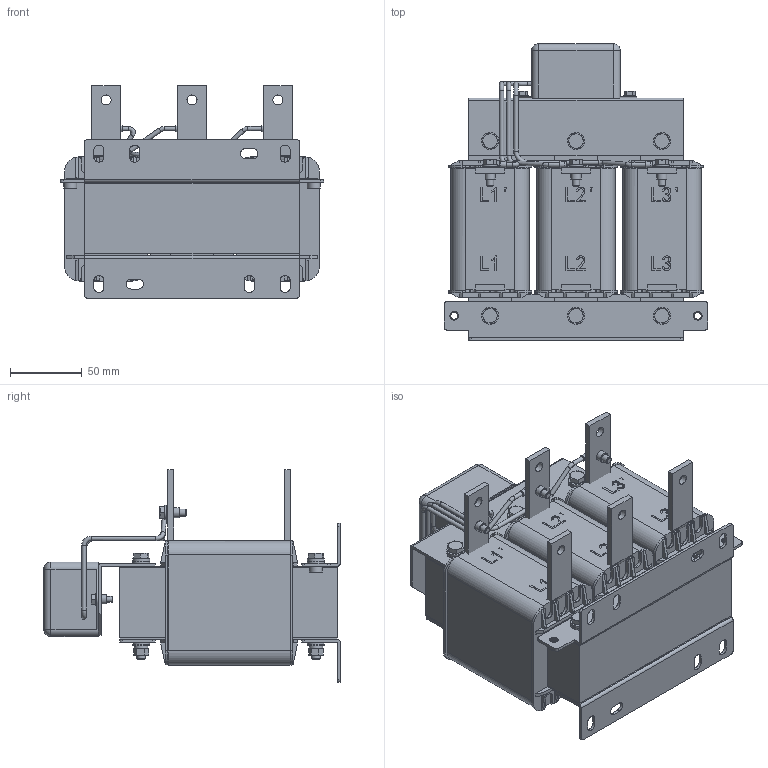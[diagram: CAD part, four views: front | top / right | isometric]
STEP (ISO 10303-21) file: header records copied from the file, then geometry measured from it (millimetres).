
FILE_DESCRIPTION(('STEP AP203'), '1');
FILE_NAME('IDUDT-30_80-4 _ dU_dt ôèëüòð 30 êÂò', '', ('UNSPECIFIED'), ('UNSPECIFIED'), 'C3D Converter', 'C3D Toolkit', '');
FILE_SCHEMA(('CONFIG_CONTROL_DESIGN'));
Length unit declared in the file: millimetre
Products named in the file (23): IDUDT-30/80-4
Assembly tree (47 placements, depth 3):
  IDUDT-30/80-4
    (unnamed)
    (unnamed)  x6
    (unnamed)
    (unnamed)
    (unnamed)
    (unnamed)
    (unnamed)
    (unnamed)
    (unnamed)  x2
      (unnamed)
      (unnamed)
    (unnamed)  x3
    (unnamed)  x3
    (unnamed)  x3
    (unnamed)  x6
    (unnamed)  x6
      (unnamed)
      (unnamed)
    (unnamed)  x3
      (unnamed)
      (unnamed)
    (unnamed)
Bounding box: 184 x 207 x 148.5 mm (x, y, z)
Volume: 1931642.5 mm3; surface area: 444956.6 mm2
Topology: 127 solids, 127 shells, 1928 faces, 4755 edges, 3136 vertices
Faces by surface type: plane 1329, cylinder 451, cone 104, bspline 27, torus 13, sphere 4
Full cylindrical faces by diameter (mm): 2.3 x3, 3 x21, 4 x5, 4.2 x3, 4.3 x3, 4.333 x2, 5 x5, 5.053 x6, 5.5 x3, 6 x6, 6.45 x6, 6.5 x14, 6.6 x12, 7 x9, 8 x2, 9 x20, 9.55 x6, 10 x3, 11 x12, 12 x24
Entity records: 69616 total; most frequent: CARTESIAN_POINT 20543, ORIENTED_EDGE 7246, DIRECTION 7134, EDGE_CURVE 3623, LINE 2684, VECTOR 2684, VERTEX_POINT 2467, AXIS2_PLACEMENT_3D 2225
